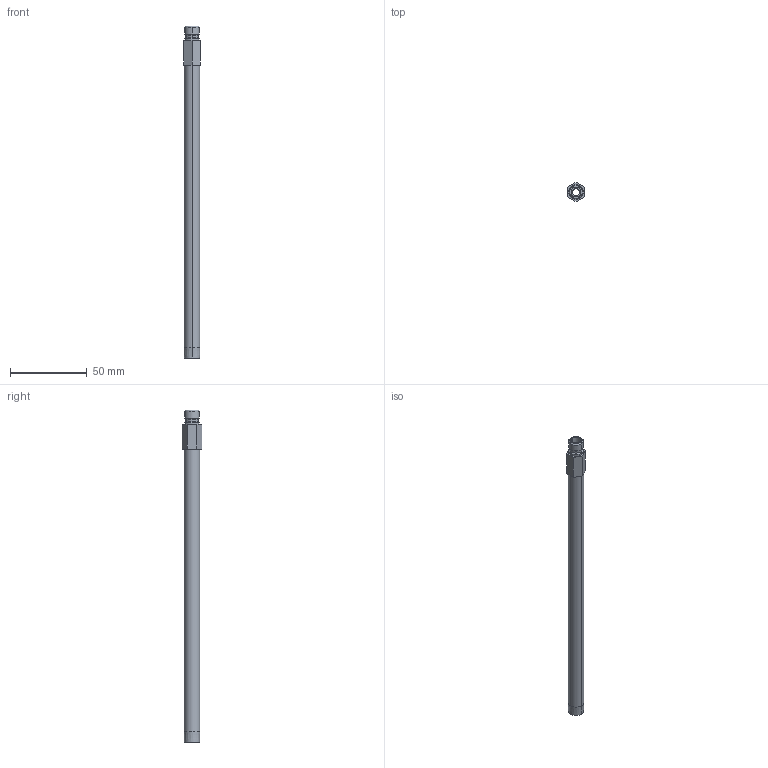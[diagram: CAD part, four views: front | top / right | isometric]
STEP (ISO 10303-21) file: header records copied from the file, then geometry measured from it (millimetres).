
FILE_DESCRIPTION (( 'STEP AP203' ), '1' );
FILE_NAME ('251L8.5-SS.step', '2023-03-09T02:54:10', ( '' ), ( '' ), 'SwSTEP 2.0', 'SolidWorks 2020', '' );
FILE_SCHEMA (( 'CONFIG_CONTROL_DESIGN' ));
Length unit declared in the file: inch
Products named in the file (1): 251L8.5-SS
Bounding box: 10.92 x 12.61 x 215.9 mm (x, y, z)
Volume: 14092.3 mm3; surface area: 10471.6 mm2
Topology: 1 solids, 1 shells, 31 faces, 66 edges, 40 vertices
Faces by surface type: cylinder 12, plane 11, cone 8
Entity records: 915 total; most frequent: DIRECTION 158, CARTESIAN_POINT 138, ORIENTED_EDGE 132, EDGE_CURVE 66, AXIS2_PLACEMENT_3D 60, VERTEX_POINT 40, LINE 38, VECTOR 38
